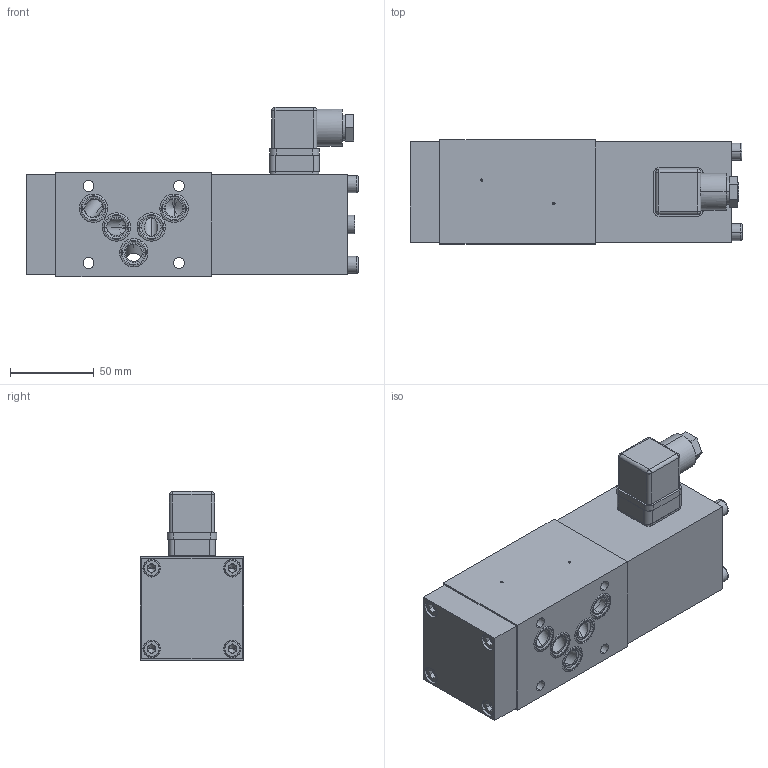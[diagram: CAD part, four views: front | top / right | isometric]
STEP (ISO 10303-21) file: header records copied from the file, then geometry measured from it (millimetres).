
FILE_DESCRIPTION (( 'STEP AP214' ), '1' );
FILE_NAME ('Z.22100A, Z.22100P, Z.22100T.STEP', '2017-03-08T09:02:51', ( '' ), ( '' ), 'SwSTEP 2.0', 'SolidWorks 2016', '' );
FILE_SCHEMA (( 'AUTOMOTIVE_DESIGN' ));
Length unit declared in the file: millimetre
Products named in the file (1): Z.22100A, Z.22100P, Z.22100T
Bounding box: 198 x 62 x 100.8 mm (x, y, z)
Volume: 703657.6 mm3; surface area: 142327 mm2
Topology: 29 solids, 29 shells, 901 faces, 2181 edges, 1359 vertices
Faces by surface type: plane 399, cylinder 296, cone 112, torus 48, bspline 46
Entity records: 37542 total; most frequent: CARTESIAN_POINT 6051, DIRECTION 4586, ORIENTED_EDGE 4278, EDGE_CURVE 2139, AXIS2_PLACEMENT_3D 1720, VERTEX_POINT 1359, LINE 1146, VECTOR 1146
